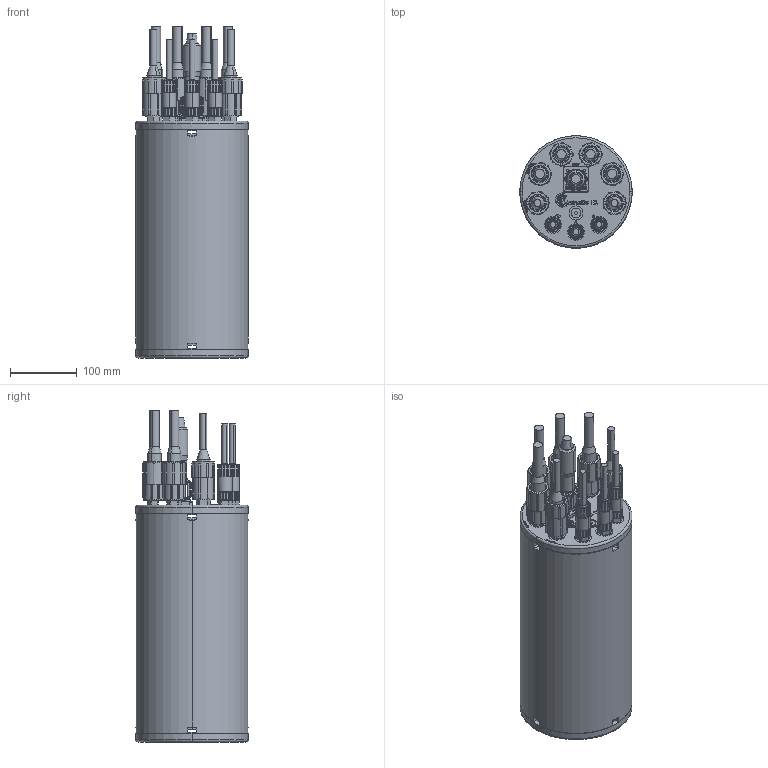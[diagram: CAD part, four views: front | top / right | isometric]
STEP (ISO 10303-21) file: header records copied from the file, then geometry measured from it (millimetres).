
FILE_DESCRIPTION (( 'STEP AP214' ), '1' );
FILE_NAME ('H2, MARINESITU_Simple.STEP', '2026-05-07T16:42:47', ( '' ), ( '' ), 'SwSTEP 2.0', 'SolidWorks 2020', '' );
FILE_SCHEMA (( 'AUTOMOTIVE_DESIGN' ));
Length unit declared in the file: metre
Products named in the file (1): H2, MARINESITU_Simple
Bounding box: 168.4 x 168.4 x 498.35 mm (x, y, z)
Surface area: 368931.6 mm2 (no closed solid volume)
Topology: 0 solids, 436 shells, 2127 faces, 8126 edges, 6155 vertices
Faces by surface type: cylinder 937, plane 535, bspline 356, cone 220, torus 65, sphere 14
Entity records: 137621 total; most frequent: CARTESIAN_POINT 52678, DIRECTION 11731, ORIENTED_EDGE 11297, EDGE_CURVE 7940, VERTEX_POINT 6155, AXIS2_PLACEMENT_3D 4239, LINE 3253, VECTOR 3253
